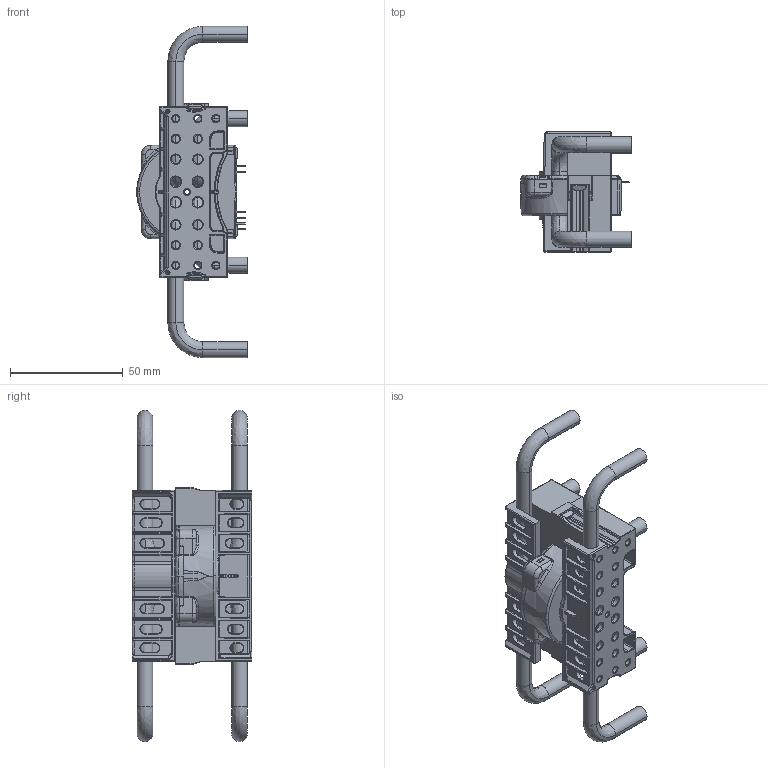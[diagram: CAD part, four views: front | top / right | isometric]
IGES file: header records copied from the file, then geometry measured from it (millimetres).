
Start section: Elysium IGES Interface
Global section: file name: D:\4.BlackBox\CTSR 3-TP SP23\CTSR 3-TP SP23 Blackbox.igs; native system: Creo Elements/Direct Modeling 20.3D  14-Nov-2022; preprocessor: Creo Element/Direct IGES_3D V2.2; author: Unknown; organization: Unknown; date: 20240122.155426; units: millimetre
Bounding box: 49.06 x 53.2 x 147 mm (x, y, z)
Volume: 91459.1 mm3; surface area: 53616.4 mm2
Topology: 6 solids, 6 shells, 1786 faces, 4628 edges, 2814 vertices
Faces by surface type: bspline 1786
